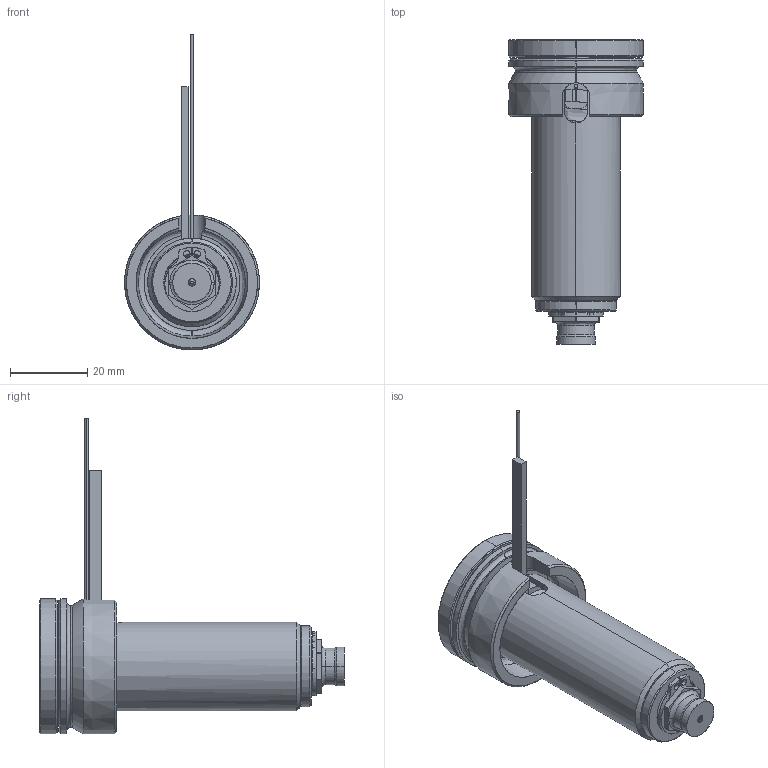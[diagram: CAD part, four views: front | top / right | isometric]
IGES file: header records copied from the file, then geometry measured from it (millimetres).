
Start section: SolidWorks IGES file using analytic representation for surfaces
Global section: file name: C:\Documents and Settings\ws-20\Desktop\TEM\UGEP3151-S-A-1 [Øf-0.70 P-0 ØC-7.0].IGS; native system: SolidWorks 2012; preprocessor: SolidWorks 2012; author: ws-20; date: 120404.081910; units: millimetre
Bounding box: 35 x 79 x 81.9 mm (x, y, z)
Surface area: 18153.3 mm2 (no closed solid volume)
Topology: 0 solids, 0 shells, 130 faces, 2048 edges, 2048 vertices
Faces by surface type: revolution 79, bspline 51
